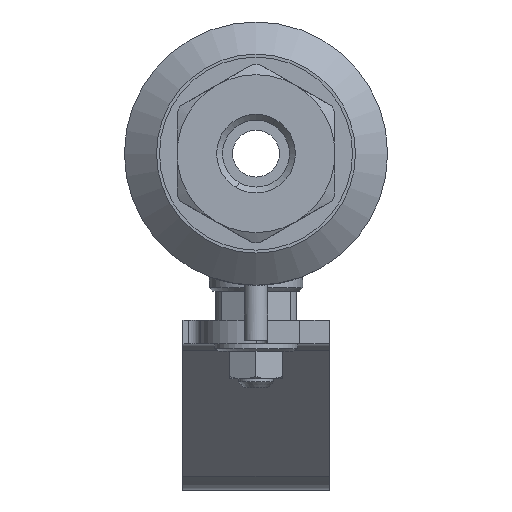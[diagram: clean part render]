
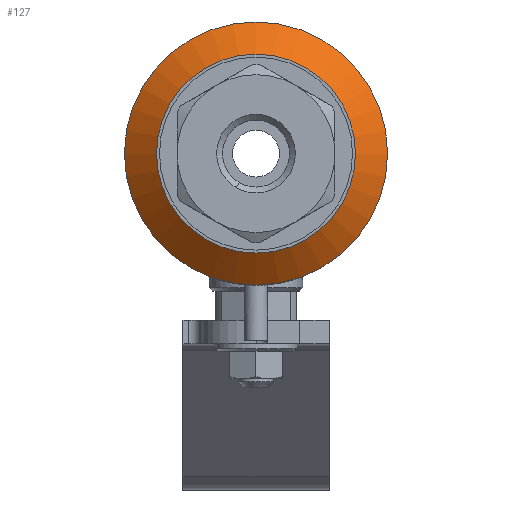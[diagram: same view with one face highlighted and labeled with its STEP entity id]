
A CAD part, left-side view. The second image highlights one B-rep face of the part: STEP entity #127.
In plain terms, the highlighted conical face has half-angle 50 degrees and reference radius 19.75 mm.
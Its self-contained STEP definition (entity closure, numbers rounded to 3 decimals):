
#127=ADVANCED_FACE('',(#1040),#1042,.T.);
#1040=FACE_OUTER_BOUND('',#1041,.T.);
#1041=EDGE_LOOP('',(#2263,#2264,#2265,#2266));
#1042=CONICAL_SURFACE('',#1043,19.75,0.873);
#1043=AXIS2_PLACEMENT_3D('',#1044,#1045,#1046);
#1044=CARTESIAN_POINT('',(-17.692,0.,0.));
#1045=DIRECTION('',(1.,0.,0.));
#1046=DIRECTION('',(0.,1.,0.));
#2263=ORIENTED_EDGE('',*,*,#3471,.T.);
#2264=ORIENTED_EDGE('',*,*,#3433,.T.);
#2265=ORIENTED_EDGE('',*,*,#3471,.F.);
#2266=ORIENTED_EDGE('',*,*,#3472,.F.);
#3433=EDGE_CURVE('',#3825,#3825,#3827,.T.);
#3471=EDGE_CURVE('',#3888,#3825,#3889,.T.);
#3472=EDGE_CURVE('',#3888,#3888,#3890,.T.);
#3825=VERTEX_POINT('',#5089);
#3827=CIRCLE('',#5093,22.5);
#3888=VERTEX_POINT('',#5482);
#3889=LINE('',#5483,#5484);
#3890=CIRCLE('',#5486,17.);
#5089=CARTESIAN_POINT('',(-15.385,-22.5,0.));
#5093=AXIS2_PLACEMENT_3D('',#5094,#5095,#5096);
#5094=CARTESIAN_POINT('',(-15.385,0.,0.));
#5095=DIRECTION('',(-1.,-0.,0.));
#5096=DIRECTION('',(0.,-1.,0.));
#5482=CARTESIAN_POINT('',(-20.,-17.,0.));
#5483=CARTESIAN_POINT('',(-20.,-17.,0.));
#5484=VECTOR('',#5485,1.);
#5485=DIRECTION('',(0.643,-0.766,0.));
#5486=AXIS2_PLACEMENT_3D('',#5487,#5488,#5489);
#5487=CARTESIAN_POINT('',(-20.,0.,0.));
#5488=DIRECTION('',(-1.,-0.,-0.));
#5489=DIRECTION('',(0.,-1.,0.));
